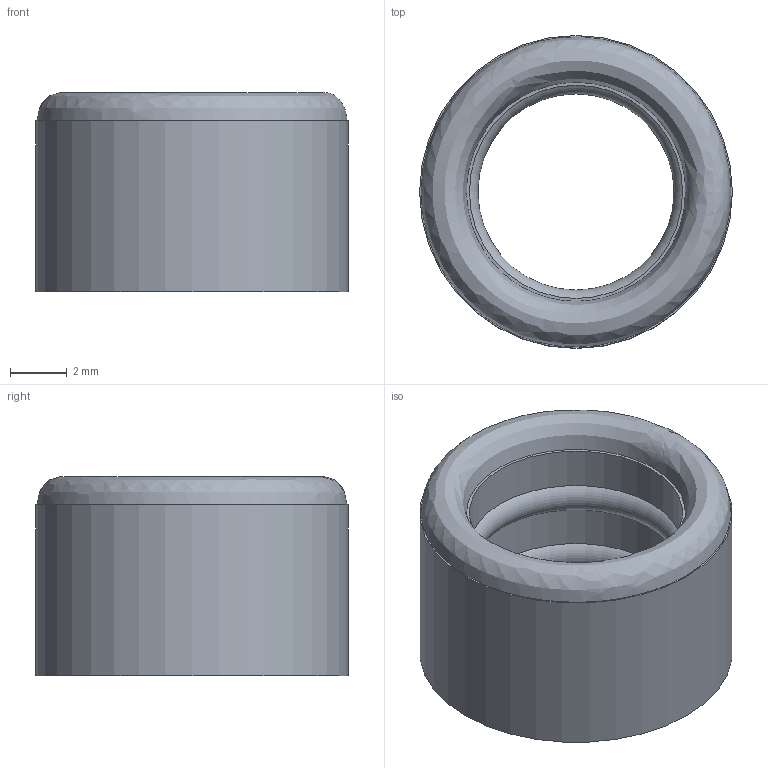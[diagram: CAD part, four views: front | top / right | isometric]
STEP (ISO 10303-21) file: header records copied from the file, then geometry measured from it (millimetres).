
FILE_DESCRIPTION(('FreeCAD Model'),'2;1');
FILE_NAME('Open CASCADE Shape Model','2026-09-29T21:45:29',('Author'),( ''),'Open CASCADE STEP processor 7.8','FreeCAD','Unknown');
FILE_SCHEMA(('AUTOMOTIVE_DESIGN { 1 0 10303 214 1 1 1 1 }'));
Length unit declared in the file: millimetre
Products named in the file (1): cable_seal_b6p9_L7p0
Bounding box: 11 x 11 x 7 mm (x, y, z)
Volume: 352.5 mm3; surface area: 494.4 mm2
Topology: 1 solids, 1 shells, 10 faces, 17 edges, 10 vertices
Faces by surface type: cylinder 4, plane 3, torus 2, bspline 1
Full cylindrical faces by diameter (mm): 7.5 x3, 11 x1
Entity records: 434 total; most frequent: CARTESIAN_POINT 231, DIRECTION 44, ORIENTED_EDGE 34, AXIS2_PLACEMENT_3D 20, EDGE_CURVE 17, FACE_BOUND 13, EDGE_LOOP 13, ADVANCED_FACE 10
